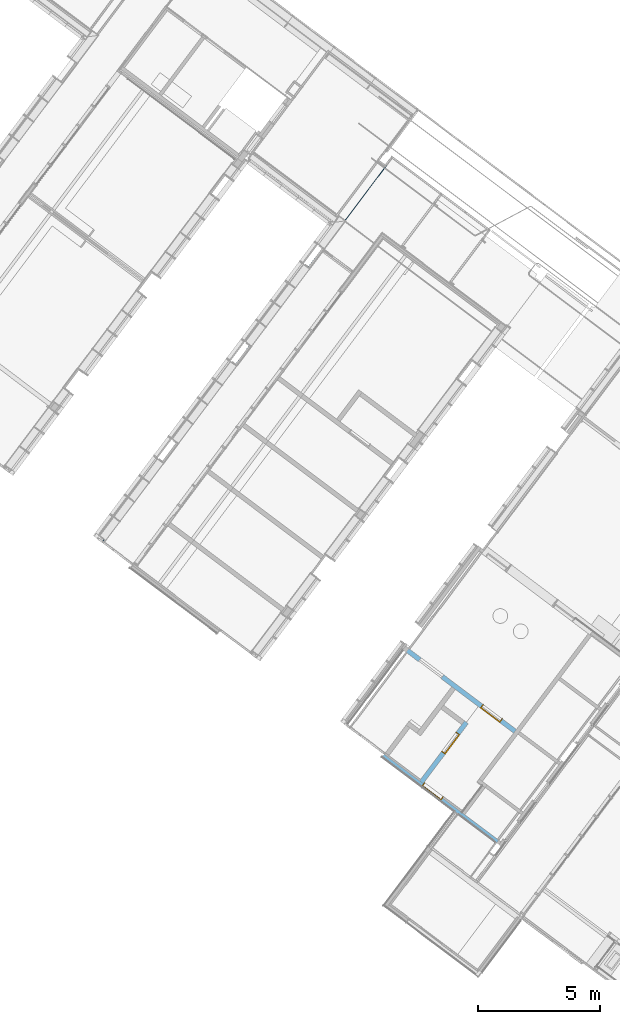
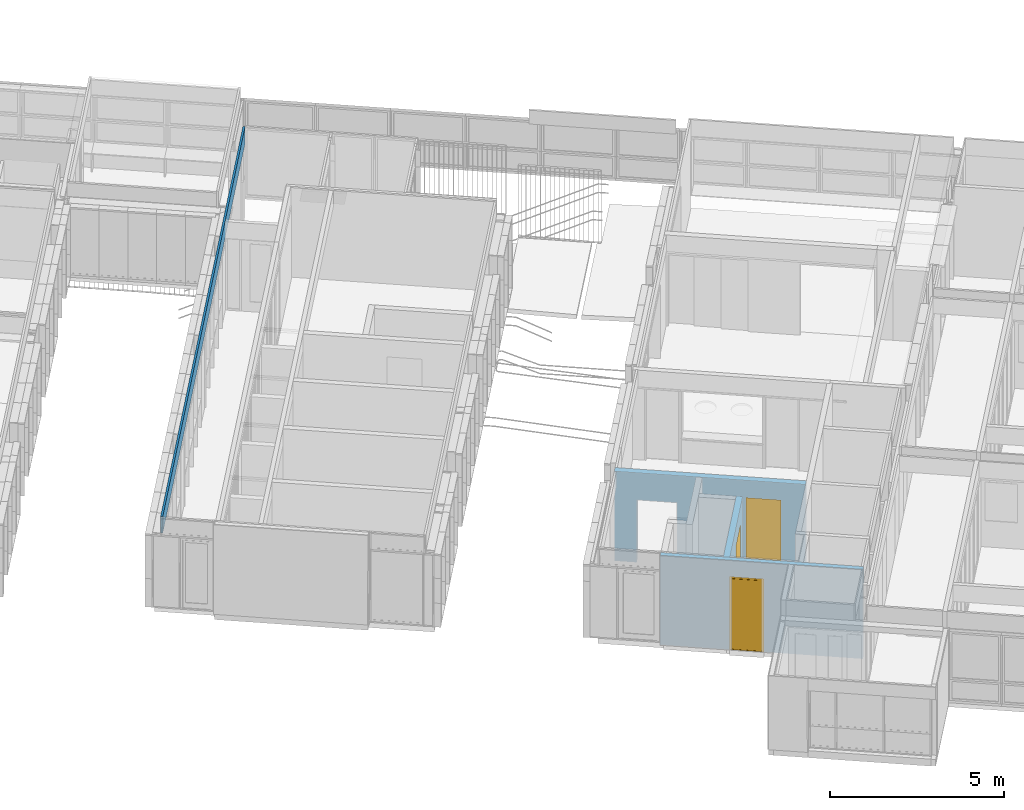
# One storey, part 136 of 243: 3 doors, 1 wall, 4 openings, plus 3 elements that do not belong to this part.
"""IFC2X3 building model written with IfcOpenShell, lengths in metres."""

from ifc_helpers import new_model, entity, si_unit, converted_unit, derived_unit, direction, frame, frame_2d, origin, place, context, subcontext, project, spatial, rectangle, extrude, faceted_brep, source, transform, mapped, material, layer, layer_set, layer_usage, type_object, type_shapes, element, fill, save


model = new_model("IFC2X3")

# Units and contexts
model_context = context("Model", 3, precision=1e-05, world=origin(), true_north=direction((6.123031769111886e-17, 1.0)))
body_context = subcontext(model_context, "Body", "Model", "MODEL_VIEW")
ifc_project = project(units=[si_unit("LENGTHUNIT", "METRE"), si_unit("AREAUNIT", "SQUARE_METRE"), si_unit("VOLUMEUNIT", "CUBIC_METRE"), converted_unit("PLANEANGLEUNIT", "DEGREE", entity("IfcRatioMeasure", 0.017453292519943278), si_unit("PLANEANGLEUNIT", "RADIAN"), dimensions=[0, 0, 0, 0, 0, 0, 0]), si_unit("MASSUNIT", "GRAM", prefix="KILO"), derived_unit("MASSDENSITYUNIT", [(si_unit("MASSUNIT", "GRAM", prefix="KILO"), 1), (si_unit("LENGTHUNIT", "METRE"), -3)]), derived_unit("IONCONCENTRATIONUNIT", [(si_unit("MASSUNIT", "GRAM", prefix="KILO"), 1), (si_unit("LENGTHUNIT", "METRE"), -3)]), derived_unit("MOMENTOFINERTIAUNIT", [(si_unit("LENGTHUNIT", "METRE"), 4)]), si_unit("TIMEUNIT", "SECOND"), si_unit("FREQUENCYUNIT", "HERTZ"), si_unit("THERMODYNAMICTEMPERATUREUNIT", "DEGREE_CELSIUS"), derived_unit("THERMALTRANSMITTANCEUNIT", [(si_unit("MASSUNIT", "GRAM", prefix="KILO"), 1), (si_unit("THERMODYNAMICTEMPERATUREUNIT", "KELVIN"), -1), (si_unit("TIMEUNIT", "SECOND"), -3)]), derived_unit("THERMALCONDUCTANCEUNIT", [(si_unit("MASSUNIT", "GRAM", prefix="KILO"), 1), (si_unit("THERMODYNAMICTEMPERATUREUNIT", "KELVIN"), -1), (si_unit("TIMEUNIT", "SECOND"), -3), (si_unit("LENGTHUNIT", "METRE"), 1)]), derived_unit("VOLUMETRICFLOWRATEUNIT", [(si_unit("LENGTHUNIT", "METRE"), 3), (si_unit("TIMEUNIT", "SECOND"), -1)]), derived_unit("MASSFLOWRATEUNIT", [(si_unit("MASSUNIT", "GRAM", prefix="KILO"), 1), (si_unit("TIMEUNIT", "SECOND"), -1)]), derived_unit("ROTATIONALFREQUENCYUNIT", [(si_unit("TIMEUNIT", "SECOND"), -1)]), si_unit("ELECTRICCURRENTUNIT", "AMPERE"), si_unit("ELECTRICVOLTAGEUNIT", "VOLT"), si_unit("POWERUNIT", "WATT"), si_unit("FORCEUNIT", "NEWTON", prefix="KILO"), si_unit("ILLUMINANCEUNIT", "LUX"), si_unit("LUMINOUSFLUXUNIT", "LUMEN"), si_unit("LUMINOUSINTENSITYUNIT", "CANDELA"), derived_unit("USERDEFINED", [(si_unit("MASSUNIT", "GRAM", prefix="KILO"), -1), (si_unit("LENGTHUNIT", "METRE"), -2), (si_unit("TIMEUNIT", "SECOND"), 3), (si_unit("LUMINOUSFLUXUNIT", "LUMEN"), 1)]), derived_unit("USERDEFINED", [(si_unit("MASSUNIT", "GRAM", prefix="KILO"), 1), (si_unit("TIMEUNIT", "SECOND"), -3), (si_unit("LENGTHUNIT", "METRE"), 3), (si_unit("ELECTRICCURRENTUNIT", "AMPERE"), -2)]), derived_unit("SOUNDPOWERUNIT", [(si_unit("MASSUNIT", "GRAM", prefix="KILO"), 1), (si_unit("TIMEUNIT", "SECOND"), -3), (si_unit("LENGTHUNIT", "METRE"), 2)]), derived_unit("SOUNDPRESSUREUNIT", [(si_unit("MASSUNIT", "GRAM", prefix="KILO"), 1), (si_unit("LENGTHUNIT", "METRE"), -1), (si_unit("TIMEUNIT", "SECOND"), -2)]), derived_unit("LINEARVELOCITYUNIT", [(si_unit("LENGTHUNIT", "METRE"), 1), (si_unit("TIMEUNIT", "SECOND"), -1)]), si_unit("PRESSUREUNIT", "PASCAL"), derived_unit("USERDEFINED", [(si_unit("MASSUNIT", "GRAM", prefix="KILO"), 1), (si_unit("LENGTHUNIT", "METRE"), -2), (si_unit("TIMEUNIT", "SECOND"), -2)]), derived_unit("LINEARFORCEUNIT", [(si_unit("MASSUNIT", "GRAM", prefix="KILO"), 1), (si_unit("TIMEUNIT", "SECOND"), -2)]), derived_unit("PLANARFORCEUNIT", [(si_unit("MASSUNIT", "GRAM", prefix="KILO"), 1), (si_unit("LENGTHUNIT", "METRE"), -1), (si_unit("TIMEUNIT", "SECOND"), -2)]), derived_unit("SPECIFICHEATCAPACITYUNIT", [(si_unit("THERMODYNAMICTEMPERATUREUNIT", "KELVIN"), -1), (si_unit("LENGTHUNIT", "METRE"), 2), (si_unit("TIMEUNIT", "SECOND"), -2)]), derived_unit("HEATINGVALUEUNIT", [(si_unit("LENGTHUNIT", "METRE"), 2), (si_unit("TIMEUNIT", "SECOND"), -2)]), derived_unit("VAPORPERMEABILITYUNIT", [(si_unit("LENGTHUNIT", "METRE"), -1), (si_unit("TIMEUNIT", "SECOND"), 1)]), derived_unit("DYNAMICVISCOSITYUNIT", [(si_unit("MASSUNIT", "GRAM", prefix="KILO"), 1), (si_unit("TIMEUNIT", "SECOND"), -1), (si_unit("LENGTHUNIT", "METRE"), -1)]), derived_unit("THERMALEXPANSIONCOEFFICIENTUNIT", [(si_unit("THERMODYNAMICTEMPERATUREUNIT", "KELVIN"), -1)]), derived_unit("MODULUSOFELASTICITYUNIT", [(si_unit("MASSUNIT", "GRAM", prefix="KILO"), 1), (si_unit("LENGTHUNIT", "METRE"), -1), (si_unit("TIMEUNIT", "SECOND"), -2)]), derived_unit("ISOTHERMALMOISTURECAPACITYUNIT", [(si_unit("LENGTHUNIT", "METRE"), 3), (si_unit("MASSUNIT", "GRAM", prefix="KILO"), -1)]), derived_unit("MOISTUREDIFFUSIVITYUNIT", [(si_unit("TIMEUNIT", "SECOND"), -1), (si_unit("LENGTHUNIT", "METRE"), 2)])], contexts=[model_context])

# Site, building, storey
site_placement = place(None, frame((0.0, 0.0, 235.0), z_axis=(0.0, 0.0, 1.0), x_axis=(-0.7996477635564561, 0.6004693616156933, 0.0)))
site = spatial("IfcSite", under=ifc_project, at=site_placement, Name="Default", CompositionType="ELEMENT")
building_placement = place(site_placement, origin())
building = spatial("IfcBuilding", under=site, at=building_placement, CompositionType="ELEMENT")
storey_placement = place(building_placement, origin())
storey = spatial("IfcBuildingStorey", under=building, at=storey_placement, Name="P0- Escola", CompositionType="ELEMENT", Elevation=0.0)

# Wall, opening, door
ifc_material_1 = material(Name="_Ceràmica- ENV")
ifc_layer_1 = layer(ifc_material_1, 0.14)
ifc_layer_set_1 = layer_set([ifc_layer_1], Name="Muro básico:ENV- Ceràmic- 14 cm")
ifc_layer_usage_1 = layer_usage(ifc_layer_set_1, "AXIS2", "NEGATIVE", 0.07)
wall_type_1 = type_object("IfcWallType", Name="Muro básico:ENV- Ceràmic- 14 cm", PredefinedType="STANDARD", material=ifc_layer_set_1)
wall_1_placement = place(storey_placement, frame((21.82514768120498, -20.22019175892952, 0.0), z_axis=(0.0, 0.0, 1.0), x_axis=(-1.0, 0.0, 0.0)))
wall_1 = element("IfcWallStandardCase", 1, at=wall_1_placement, inside=storey, type_object=wall_type_1, material=ifc_layer_usage_1, Name="Muro básico:ENV- Ceràmic- 14 cm", ObjectType="Muro básico:ENV- Ceràmic- 14 cm", context=body_context, shape_type="SweptSolid", body=[
    extrude(rectangle(XDim=5.879999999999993, YDim=0.14000000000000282, at=frame_2d((2.9399999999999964, 0.0), x_axis=(-1.0, 0.0))), origin(), (0.0, 0.0, 1.0), 3.150000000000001),
])
opening_1_placement = place(wall_1_placement, frame((3.0076161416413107, 0.07000000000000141, 0.0)))
opening_1 = element("IfcOpeningElement", 2, at=opening_1_placement, cuts=wall_1, Name="FUS- Alu- Fulla porta opaca:FUS- Alu- Fulla porta opaca- 2,505X0,85:1", ObjectType="Opening", context=body_context, shape_type="SweptSolid", body=[
    extrude(rectangle(XDim=2.573999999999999, YDim=0.9965999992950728, at=frame_2d((1.2869999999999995, 0.4982999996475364), x_axis=(1.0, 0.0))), frame((0.0, 0.0, 0.0), z_axis=(0.0, -1.0, 0.0), x_axis=(0.0, 0.0, 1.0)), (0.0, 0.0, 1.0), 0.14),
])
ifc_material_2 = material(Name="_Alumini- T1- Perfil")
door_style_1 = type_object("IfcDoorStyle", Name="FUS- Alu- Fulla porta opaca:FUS- Alu- Fulla porta opaca- 2,505X0,85", ConstructionType="NOTDEFINED", OperationType="NOTDEFINED", ParameterTakesPrecedence=False, Sizeable=False, material=ifc_material_2)
shared_shape_1 = source(origin(), body_context, "Body", "Brep", [
    faceted_brep([(0.919299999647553, 0.14000000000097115, 0.02800000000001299), (0.9192999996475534, 0.1250000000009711, 0.02800000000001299), (0.07729999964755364, 0.12500000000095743, 0.02800000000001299), (0.07729999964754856, 0.14000000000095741, 0.02800000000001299), (0.919299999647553, 0.14000000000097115, 2.496000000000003), (0.9192999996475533, 0.12500000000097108, 2.496000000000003), (0.07729999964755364, 0.12500000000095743, 2.496000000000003), (0.07729999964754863, 0.14000000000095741, 2.496000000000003)], [[[0, 1, 2, 3]], [[4, 5, 1, 0]], [[5, 6, 2, 1]], [[6, 7, 3, 2]], [[7, 4, 0, 3]], [[4, 7, 6, 5]]]),
    faceted_brep([(0.9192999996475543, 0.070000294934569, 0.02800000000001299), (0.07729999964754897, 0.07000029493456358, 0.02800000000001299), (0.07729999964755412, 0.085000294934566, 0.02800000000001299), (0.9192999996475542, 0.08500029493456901, 0.02800000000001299), (0.9192999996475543, 0.070000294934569, 2.496000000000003), (0.07729999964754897, 0.07000029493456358, 2.496000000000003), (0.07729999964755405, 0.085000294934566, 2.496000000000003), (0.9192999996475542, 0.08500029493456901, 2.496000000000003)], [[[0, 1, 2, 3]], [[4, 5, 1, 0]], [[5, 6, 2, 1]], [[6, 7, 3, 2]], [[7, 4, 0, 3]], [[4, 7, 6, 5]]]),
    faceted_brep([(0.9472999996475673, 0.07430029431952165, 2.524000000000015), (0.9472999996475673, 0.07000029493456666, 2.524000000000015), (0.9472999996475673, 0.07000029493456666, 0.0), (0.9472999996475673, 0.07430029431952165, 0.0), (0.9192999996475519, 0.07000029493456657, 0.028000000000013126), (0.07729999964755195, 0.07000029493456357, 0.028000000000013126), (0.07729999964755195, 0.07000029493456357, 2.496), (0.9192999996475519, 0.07000029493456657, 2.496), (0.04929999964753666, 0.07000029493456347, 2.524000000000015), (0.04929999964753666, 0.07000029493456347, 0.0), (0.04929999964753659, 0.07430029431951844, 0.0), (0.04929999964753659, 0.07430029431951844, 2.524000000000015), (0.9232999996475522, 0.07430029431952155, 2.5), (0.07329999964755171, 0.07430029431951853, 2.5), (0.07329999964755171, 0.07430029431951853, 0.024000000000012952), (0.9232999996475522, 0.07430029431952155, 0.024000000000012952), (0.9232999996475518, 0.14000000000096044, 2.5), (0.9232999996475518, 0.14000000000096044, 0.024000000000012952), (0.0732999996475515, 0.14000000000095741, 0.024000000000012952), (0.0732999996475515, 0.14000000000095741, 2.5), (0.9192999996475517, 0.1400000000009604, 2.496), (0.07729999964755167, 0.14000000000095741, 2.496), (0.07729999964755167, 0.14000000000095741, 0.028000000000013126), (0.9192999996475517, 0.1400000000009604, 0.028000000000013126)], [[[0, 1, 2, 3]], [[4, 5, 6, 7], [1, 8, 9, 2]], [[3, 2, 9, 10]], [[3, 10, 11, 0], [12, 13, 14, 15]], [[16, 12, 15, 17]], [[17, 15, 14, 18]], [[17, 18, 19, 16], [20, 21, 22, 23]], [[10, 9, 8, 11]], [[18, 14, 13, 19]], [[7, 20, 23, 4]], [[4, 23, 22, 5]], [[5, 22, 21, 6]], [[11, 8, 1, 0]], [[6, 21, 20, 7]], [[19, 13, 12, 16]]], outer=[[True], [False, True], [True], [True, False], [True], [True], [True, False], [True], [True], [True], [True], [True], [True], [True], [True]]),
    faceted_brep([(0.0, -0.06500000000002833, 0.0), (0.0, 0.1400000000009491, 0.0), (0.06729999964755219, 0.1400000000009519, 0.0), (0.06729999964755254, 0.1311999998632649, 0.0), (0.05180003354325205, 0.13119999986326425, 0.0), (0.051800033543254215, 0.08030013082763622, 0.0), (0.041300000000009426, 0.08030013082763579, 0.0), (0.04130000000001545, -0.0650000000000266, 0.0), (0.04130000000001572, -0.0650000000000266, 2.5327000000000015), (0.9552999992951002, -0.06499999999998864, 2.532700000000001), (0.9552999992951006, -0.06499999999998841, 0.0), (0.9965999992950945, -0.0649999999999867, 0.0), (0.9965999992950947, -0.0649999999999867, 2.5739999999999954), (0.0, -0.06500000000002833, 2.5739999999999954), (0.041300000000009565, 0.08030013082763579, 2.5327000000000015), (0.051800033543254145, 0.08030013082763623, 2.522199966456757), (0.9447999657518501, 0.08030013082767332, 2.522199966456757), (0.9447999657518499, 0.08030013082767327, 0.0), (0.9552999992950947, 0.0803001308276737, 0.0), (0.955299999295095, 0.0803001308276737, 2.5327000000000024), (0.05180003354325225, 0.13119999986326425, 2.5221999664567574), (0.06729999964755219, 0.1311999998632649, 2.5067000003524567), (0.9292999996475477, 0.1311999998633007, 2.5067000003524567), (0.9292999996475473, 0.13119999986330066, 0.0), (0.9447999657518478, 0.1311999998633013, 0.0), (0.9447999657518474, 0.1311999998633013, 2.5221999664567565), (0.0672999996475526, 0.1400000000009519, 2.5067000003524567), (0.0, 0.1400000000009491, 2.5739999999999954), (0.996599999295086, 0.14000000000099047, 2.5739999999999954), (0.9965999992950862, 0.14000000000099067, 0.0), (0.9292999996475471, 0.14000000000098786, 0.0), (0.9292999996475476, 0.14000000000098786, 2.5067000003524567)], [[[0, 1, 2, 3, 4, 5, 6, 7]], [[7, 8, 9, 10, 11, 12, 13, 0]], [[6, 14, 8, 7]], [[5, 15, 16, 17, 18, 19, 14, 6]], [[4, 20, 15, 5]], [[3, 21, 22, 23, 24, 25, 20, 4]], [[2, 26, 21, 3]], [[1, 27, 28, 29, 30, 31, 26, 2]], [[0, 13, 27, 1]], [[11, 10, 18, 17, 24, 23, 30, 29]], [[12, 11, 29, 28]], [[31, 30, 23, 22]], [[25, 24, 17, 16]], [[19, 18, 10, 9]], [[14, 19, 9, 8]], [[20, 25, 16, 15]], [[26, 31, 22, 21]], [[13, 12, 28, 27]]]),
    faceted_brep([(0.955299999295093, 0.14000000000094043, 0.02000000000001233), (0.955299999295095, 0.08500029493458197, 0.02000000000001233), (0.955299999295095, 0.08500029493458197, 0.0), (0.955299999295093, 0.14000000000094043, 0.0), (0.04130000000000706, 0.14000000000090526, 0.02000000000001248), (0.04130000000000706, 0.14000000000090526, 0.0), (0.041300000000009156, 0.0850002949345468, 0.0), (0.041300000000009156, 0.0850002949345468, 0.02000000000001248)], [[[0, 1, 2, 3]], [[4, 5, 6, 7]], [[3, 5, 4, 0]], [[2, 6, 5, 3]], [[1, 7, 6, 2]], [[0, 4, 7, 1]]]),
])
type_shapes(door_style_1, [shared_shape_1])
door_1_placement = place(opening_1_placement, frame((0.0, 0.0, 0.0), z_axis=(0.0, 0.0, 1.0), x_axis=(-1.0, 0.0, 0.0)))
door_1 = element("IfcDoor", 3, at=door_1_placement, inside=storey, type_object=door_style_1, material=ifc_material_2, Name="FUS- Alu- Fulla porta opaca:FUS- Alu- Fulla porta opaca- 2,505X0,85", ObjectType="FUS- Alu- Fulla porta opaca:FUS- Alu- Fulla porta opaca- 2,505X0,85", OverallHeight=2.573999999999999, OverallWidth=0.9965999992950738, context=body_context, shape_type="MappedRepresentation", body=[
    mapped(shared_shape_1, transform((0.0, 0.0, 0.0), scale=1.0)),
])
fill(opening_1, door_1)

# Wall
ifc_material_3 = material(Name="_Guix laminat- ENV")
ifc_layer_2 = layer(ifc_material_3, 0.02)
ifc_material_4 = material(Name="_Aillament")
ifc_layer_3 = layer(ifc_material_4, 0.045)
ifc_layer_set_2 = layer_set([ifc_layer_2, ifc_layer_3], Name="Muro básico:REV- Guix Laminat Extradossat- Aillament- T1- 6,5 cm")
wall_type_2 = type_object("IfcWallType", Name="Muro básico:REV- Guix Laminat Extradossat- Aillament- T1- 6,5 cm", PredefinedType="STANDARD", material=ifc_layer_set_2)
wall_2_placement = place(storey_placement, frame((36.31264768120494, -40.080191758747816, 2.5650000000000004), z_axis=(0.0, 0.0, 1.0), x_axis=(0.0, 1.0, 0.0)))
element("IfcWall", 4, at=wall_2_placement, inside=storey, type_object=wall_type_2, Name="Muro básico:REV- Guix Laminat Extradossat- Aillament- T1- 6,5 cm", ObjectType="Muro básico:REV- Guix Laminat Extradossat- Aillament- T1- 6,5 cm", context=body_context, shape_type="Brep", body=[
    faceted_brep([(19.726250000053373, -0.03249999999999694, 0.0), (19.726250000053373, -0.03249999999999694, 0.5850000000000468), (0.0, -0.03249999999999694, 0.5850000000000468), (0.0, -0.03249999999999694, 0.0), (0.3899999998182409, -0.03249999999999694, 0.0), (0.3899999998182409, -0.03249999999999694, 0.03499999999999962), (3.2000018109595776, -0.03249999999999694, 0.03499999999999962), (3.2000018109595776, -0.03249999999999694, 0.0), (19.726250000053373, 0.03250000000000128, 0.0), (4.809999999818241, 0.03250000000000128, 0.0), (4.679999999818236, 0.03250000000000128, 0.0), (0.0, 0.03250000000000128, 0.0), (0.0, 0.03250000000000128, 0.5850000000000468), (4.67999999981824, 0.03250000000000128, 0.5850000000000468), (4.809999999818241, 0.03250000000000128, 0.5850000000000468), (19.726250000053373, 0.03250000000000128, 0.5850000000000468), (3.2000018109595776, 0.012499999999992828, 0.0), (0.3899999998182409, 0.01249999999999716, 0.0), (0.3899999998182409, 0.01249999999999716, 0.03499999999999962), (3.2000018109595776, 0.012499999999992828, 0.03499999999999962)], [[[0, 1, 2, 3, 4, 5, 6, 7]], [[8, 9, 10, 11, 12, 13, 14, 15]], [[11, 10, 9, 8, 0, 7, 16, 17, 4, 3]], [[1, 0, 8, 15]], [[2, 1, 15, 14, 13, 12]], [[3, 2, 12, 11]], [[18, 19, 6, 5]], [[19, 18, 17, 16]], [[19, 16, 7, 6]], [[17, 18, 5, 4]]]),
])

# Wall, openings, door
ifc_material_5 = material(Name="_Enrajolat Gresite- REV- PAV")
ifc_layer_4 = layer(ifc_material_5, 0.01)
ifc_material_6 = material(Name="_Morter Base - REV")
ifc_layer_5 = layer(ifc_material_6, 0.015)
ifc_layer_6 = layer(ifc_material_1, 0.14)
ifc_layer_7 = layer(ifc_material_6, 0.015)
ifc_layer_8 = layer(ifc_material_5, 0.01)
ifc_layer_set_3 = layer_set([ifc_layer_4, ifc_layer_5, ifc_layer_6, ifc_layer_7, ifc_layer_8], Name="Muro básico:ENV- REV- Ceràmic- 14 cm + peces pasta vitrea 2 caras")
ifc_layer_usage_2 = layer_usage(ifc_layer_set_3, "AXIS2", "NEGATIVE", 0.09499999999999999)
wall_type_3 = type_object("IfcWallType", Name="Muro básico:ENV- REV- Ceràmic- 14 cm + peces pasta vitrea 2 caras", PredefinedType="STANDARD", material=ifc_layer_set_3)
wall_3_placement = place(storey_placement, frame((18.095147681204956, -24.272191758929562, 0.0)))
wall_3 = element("IfcWallStandardCase", 5, at=wall_3_placement, inside=storey, type_object=wall_type_3, material=ifc_layer_usage_2, Name="Muro básico:ENV- REV- Ceràmic- 14 cm + peces pasta vitrea 2 caras", ObjectType="Muro básico:ENV- REV- Ceràmic- 14 cm + peces pasta vitrea 2 caras", context=body_context, shape_type="SweptSolid", body=[
    extrude(rectangle(XDim=5.550000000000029, YDim=0.1900000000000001, at=frame_2d((2.7750000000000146, -1.3183898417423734e-16), x_axis=(-1.0, 0.0))), origin(), (0.0, 0.0, 1.0), 3.150000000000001),
])
opening_2_placement = place(wall_3_placement, frame((3.730000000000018, -1.6190000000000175, 0.0)))
element("IfcOpeningElement", 6, at=opening_2_placement, cuts=wall_3, Name="Muro básico:ENV- REV- Ceràmic- 14 cm + peces pasta vitrea 2 caras", ObjectType="Opening", context=body_context, shape_type="SweptSolid", body=[
    extrude(rectangle(XDim=2.199999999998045, YDim=1.1700000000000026, at=frame_2d((-4.3298697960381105e-15, 0.0), x_axis=(0.0, 1.0))), frame((0.584999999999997, 0.0, 1.0999999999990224), z_axis=(0.0, 1.0, 0.0), x_axis=(-1.0, 0.0, 0.0)), (0.0, 0.0, 1.0), 3.048),
])
opening_3_placement = place(wall_3_placement, frame((0.7050000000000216, -0.09500000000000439, 0.0)))
opening_3 = element("IfcOpeningElement", 7, at=opening_3_placement, cuts=wall_3, Name="FUS- Porta Fusta- marc ocult- obertura exterior:FUS- Porta Fusta- marc ocult- 90x250,5 cm:1", ObjectType="Opening", context=body_context, shape_type="SweptSolid", body=[
    extrude(rectangle(XDim=2.544999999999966, YDim=1.0199999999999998, at=frame_2d((1.272499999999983, 0.5100000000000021), x_axis=(1.0, 0.0))), frame((0.0, 0.0, 0.0), z_axis=(0.0, 1.0, 0.0), x_axis=(0.0, 0.0, 1.0)), (0.0, 0.0, 1.0), 0.18999999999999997),
])
ifc_material_7 = material(Name="_Fusta massisa- T1-  REV- PAV")
door_style_2 = type_object("IfcDoorStyle", Name="FUS- Porta Fusta- marc ocult- obertura exterior:FUS- Porta Fusta- marc ocult- 90x250,5 cm", ConstructionType="NOTDEFINED", OperationType="SINGLE_SWING_RIGHT", ParameterTakesPrecedence=False, Sizeable=False, material=ifc_material_7)
shared_shape_2 = source(origin(), body_context, "Body", "Brep", [
    faceted_brep([(0.9000000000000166, -0.019999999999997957, 2.5049999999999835), (0.9000000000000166, -0.01999999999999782, 0.0), (0.9300000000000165, -0.019999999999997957, 0.0), (0.9300000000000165, -0.01999999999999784, 2.5449999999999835), (-0.06999999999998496, -0.019999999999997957, 2.5449999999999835), (-0.06999999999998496, -0.019999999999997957, 0.0), (-0.03999999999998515, -0.019999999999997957, 0.0), (-0.039999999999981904, -0.019999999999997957, 2.5049999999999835), (-0.03999999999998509, 0.1400000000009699, 0.0), (-0.03999999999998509, 0.1400000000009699, 2.5449999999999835), (-0.03999999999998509, 0.12000000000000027, 2.5449999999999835), (-0.03999999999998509, 0.12000000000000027, 2.5049999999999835), (-0.06999999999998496, -0.009999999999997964, 0.0), (-0.07999999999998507, -0.009999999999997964, 0.0), (-0.07999999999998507, 0.1900000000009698, 0.0), (-0.019999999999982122, 0.1900000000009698, 0.0), (-0.019999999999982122, 0.1400000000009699, 0.0), (-0.06999999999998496, -0.009999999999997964, 2.5449999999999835), (0.9300000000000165, -0.009999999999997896, 0.0), (0.9300000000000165, -0.009999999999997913, 2.5449999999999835), (0.9000000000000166, 0.14000000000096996, 0.0), (0.8800000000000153, 0.14000000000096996, 0.0), (0.8800000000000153, 0.19000000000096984, 0.0), (0.9400000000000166, 0.19000000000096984, 0.0), (0.9400000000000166, -0.009999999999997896, 0.0), (0.9000000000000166, 0.12000000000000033, 2.5049999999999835), (0.900000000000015, 0.12000000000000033, 2.5449999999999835), (0.9000000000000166, 0.14000000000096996, 2.5449999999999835), (-0.019999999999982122, 0.19000000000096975, 2.5049999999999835), (-0.07999999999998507, 0.1900000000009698, 2.5449999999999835), (0.9400000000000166, 0.19000000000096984, 2.5449999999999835), (0.8800000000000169, 0.19000000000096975, 2.5049999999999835), (0.8800000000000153, 0.14000000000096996, 2.5049999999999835), (0.9400000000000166, -0.009999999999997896, 2.5449999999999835), (-0.07999999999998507, -0.009999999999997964, 2.5449999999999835), (-0.019999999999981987, 0.1400000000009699, 2.5049999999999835), (-0.01999999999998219, 0.1400000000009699, 2.5449999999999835), (0.8800000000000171, 0.14000000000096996, 2.5449999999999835), (0.8800000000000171, 0.12000000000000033, 2.5449999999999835), (-0.019999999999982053, 0.12000000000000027, 2.5449999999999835), (0.8800000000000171, 0.12000000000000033, 2.5049999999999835), (-0.019999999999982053, 0.12000000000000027, 2.5049999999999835)], [[[0, 1, 2, 3, 4, 5, 6, 7]], [[8, 9, 10, 11, 7, 6]], [[12, 13, 14, 15, 16, 8, 6, 5]], [[17, 12, 5, 4]], [[3, 2, 18, 19]], [[18, 2, 1, 20, 21, 22, 23, 24]], [[1, 0, 25, 26, 27, 20]], [[28, 15, 14, 29, 30, 23, 22, 31]], [[21, 32, 31, 22]], [[33, 24, 23, 30]], [[29, 14, 13, 34]], [[15, 28, 35, 16]], [[9, 8, 16, 35, 36]], [[34, 13, 12, 17]], [[19, 18, 24, 33]], [[37, 32, 21, 20, 27]], [[30, 29, 34, 17, 4, 3, 19, 33], [38, 37, 27, 26], [10, 9, 36, 39]], [[31, 32, 40, 25, 0, 7, 11, 41, 35, 28]], [[26, 25, 40, 38]], [[40, 32, 37, 38]], [[39, 41, 11, 10]], [[39, 36, 35, 41]]]),
    faceted_brep([(-0.019999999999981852, 0.18999999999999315, 0.0), (0.8800000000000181, 0.18999999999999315, 0.0), (0.8800000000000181, 0.13999999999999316, 0.0), (-0.019999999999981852, 0.13999999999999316, 0.0), (-0.019999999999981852, 0.18999999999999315, 2.5050000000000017), (-0.019999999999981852, 0.13999999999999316, 2.5050000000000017), (0.8800000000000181, 0.13999999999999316, 2.5050000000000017), (0.8800000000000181, 0.18999999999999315, 2.5050000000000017)], [[[0, 1, 2, 3]], [[4, 0, 3, 5]], [[5, 3, 2, 6]], [[6, 2, 1, 7]], [[7, 1, 0, 4]], [[4, 5, 6, 7]]]),
])
type_shapes(door_style_2, [shared_shape_2])
door_2_placement = place(opening_3_placement, frame((0.07999999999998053, 0.0, 0.0)))
door_2 = element("IfcDoor", 8, at=door_2_placement, inside=storey, type_object=door_style_2, material=ifc_material_7, Name="FUS- Porta Fusta- marc ocult- obertura exterior:FUS- Porta Fusta- marc ocult- 90x250,5 cm", ObjectType="FUS- Porta Fusta- marc ocult- obertura exterior:FUS- Porta Fusta- marc ocult- 90x250,5 cm", OverallHeight=2.544999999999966, OverallWidth=1.020000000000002, context=body_context, shape_type="MappedRepresentation", body=[
    mapped(shared_shape_2, transform((0.0, 0.0, 0.0), scale=1.0)),
])
fill(opening_3, door_2)

# Wall, opening, door
wall_4_placement = place(storey_placement, frame((19.915147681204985, -20.29019175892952, 0.0), z_axis=(0.0, 0.0, 1.0), x_axis=(0.0, -1.0, 0.0)))
wall_4 = element("IfcWallStandardCase", 9, at=wall_4_placement, inside=storey, type_object=wall_type_3, material=ifc_layer_usage_2, Name="Muro básico:ENV- REV- Ceràmic- 14 cm + peces pasta vitrea 2 caras", ObjectType="Muro básico:ENV- REV- Ceràmic- 14 cm + peces pasta vitrea 2 caras", context=body_context, shape_type="SweptSolid", body=[
    extrude(rectangle(XDim=3.0770000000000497, YDim=0.1900000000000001, at=frame_2d((1.5385000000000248, 0.0), x_axis=(1.0, 0.0))), origin(), (0.0, 0.0, 1.0), 3.150000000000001),
])
opening_4_placement = place(wall_4_placement, frame((1.4959999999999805, -0.09499999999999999, 0.0)))
opening_4 = element("IfcOpeningElement", 10, at=opening_4_placement, cuts=wall_4, Name="FUS- Porta Fusta- marc ocult- obertura interior:FUS- Porta Fusta- marc ocult- 90x250,5 cm:1", ObjectType="Opening", context=body_context, shape_type="SweptSolid", body=[
    extrude(rectangle(XDim=2.544999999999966, YDim=1.0199999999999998, at=frame_2d((1.272499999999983, 0.5100000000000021), x_axis=(1.0, 0.0))), frame((0.0, 0.0, 0.0), z_axis=(0.0, 1.0, 0.0), x_axis=(0.0, 0.0, 1.0)), (0.0, 0.0, 1.0), 0.18999999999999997),
])
door_style_3 = type_object("IfcDoorStyle", Name="FUS- Porta Fusta- marc ocult- obertura interior:FUS- Porta Fusta- marc ocult- 90x250,5 cm", ConstructionType="NOTDEFINED", OperationType="NOTDEFINED", ParameterTakesPrecedence=False, Sizeable=False, material=ifc_material_7)
shared_shape_3 = source(origin(), body_context, "Body", "Brep", [
    faceted_brep([(1.0100000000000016, 0.0, 0.0), (1.0100000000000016, -0.009999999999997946, 0.0), (0.9800000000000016, -0.009999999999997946, 0.0), (0.9800000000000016, 0.1400000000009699, 0.0), (0.9599999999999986, 0.1400000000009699, 0.0), (0.9599999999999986, 0.1900000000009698, 0.0), (1.0200000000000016, 0.1900000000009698, 0.0), (1.0200000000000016, 0.0, 0.0), (1.0100000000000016, 0.0, 2.5449999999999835), (1.0100000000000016, -0.009999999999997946, 2.5449999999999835), (0.9800000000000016, -0.009999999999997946, 2.5049999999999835), (0.9800000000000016, 0.12000000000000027, 2.5049999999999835), (0.9799999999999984, 0.12000000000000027, 2.5449999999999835), (0.9800000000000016, 0.1400000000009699, 2.5449999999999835), (0.9599999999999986, 0.1400000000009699, 2.5449999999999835), (0.9599999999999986, 0.1400000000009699, 2.5049999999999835), (0.9599999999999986, 0.19000000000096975, 2.5049999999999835), (1.0200000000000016, 0.1900000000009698, 2.5449999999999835), (1.0200000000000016, 0.0, 2.5449999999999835), (0.010000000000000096, 0.0, 0.0), (0.0, 0.0, 0.0), (0.0, 0.19000000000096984, 0.0), (0.06000000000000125, 0.19000000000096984, 0.0), (0.06000000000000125, 0.14000000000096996, 0.0), (0.03999999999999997, 0.14000000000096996, 0.0), (0.03999999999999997, -0.009999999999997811, 0.0), (0.010000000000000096, -0.009999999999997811, 0.0), (0.010000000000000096, 0.0, 2.5449999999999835), (0.0, 0.0, 2.5449999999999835), (0.0, 0.19000000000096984, 2.5449999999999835), (0.06000000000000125, 0.19000000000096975, 2.5049999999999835), (0.06000000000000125, 0.14000000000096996, 2.5049999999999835), (0.06000000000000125, 0.14000000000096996, 2.5449999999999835), (0.03999999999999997, 0.14000000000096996, 2.5449999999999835), (0.03999999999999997, 0.12000000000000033, 2.5449999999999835), (0.03999999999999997, 0.12000000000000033, 2.5049999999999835), (0.03999999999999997, -0.009999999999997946, 2.5049999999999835), (0.010000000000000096, -0.009999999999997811, 2.5449999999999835), (0.05999999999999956, 0.12000000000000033, 2.5449999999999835), (0.9599999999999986, 0.12000000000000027, 2.5449999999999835), (0.9599999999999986, 0.12000000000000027, 2.5049999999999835), (0.05999999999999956, 0.12000000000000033, 2.5049999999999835)], [[[0, 1, 2, 3, 4, 5, 6, 7]], [[8, 9, 1, 0]], [[3, 2, 10, 11, 12, 13]], [[13, 14, 15, 4, 3]], [[5, 4, 15, 16]], [[17, 18, 7, 6]], [[18, 8, 0, 7]], [[19, 20, 21, 22, 23, 24, 25, 26]], [[27, 28, 20, 19]], [[28, 29, 21, 20]], [[23, 22, 30, 31]], [[32, 33, 24, 23, 31]], [[25, 24, 33, 34, 35, 36]], [[37, 27, 19, 26]], [[29, 28, 27, 37, 9, 8, 18, 17], [38, 34, 33, 32], [12, 39, 14, 13]], [[30, 16, 15, 40, 11, 10, 36, 35, 41, 31]], [[34, 38, 41, 35]], [[36, 10, 2, 1, 9, 37, 26, 25]], [[39, 12, 11, 40]], [[39, 40, 15, 14]], [[16, 30, 22, 21, 29, 17, 6, 5]], [[41, 38, 32, 31]]]),
    faceted_brep([(0.9599999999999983, 0.19000000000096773, 0.0), (0.9599999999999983, 0.14000000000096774, 0.0), (0.05999999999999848, 0.14000000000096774, 0.0), (0.05999999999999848, 0.19000000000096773, 0.0), (0.9599999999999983, 0.19000000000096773, 2.5050000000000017), (0.9599999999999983, 0.14000000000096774, 2.5050000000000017), (0.05999999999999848, 0.14000000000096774, 2.5050000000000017), (0.05999999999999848, 0.19000000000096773, 2.5050000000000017)], [[[0, 1, 2, 3]], [[4, 5, 1, 0]], [[5, 6, 2, 1]], [[6, 7, 3, 2]], [[7, 4, 0, 3]], [[4, 7, 6, 5]]]),
])
type_shapes(door_style_3, [shared_shape_3])
door_3_placement = place(opening_4_placement, frame((1.0199999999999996, 0.18999999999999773, 0.0), z_axis=(0.0, 0.0, 1.0), x_axis=(-1.0, 0.0, 0.0)))
door_3 = element("IfcDoor", 11, at=door_3_placement, inside=storey, type_object=door_style_3, material=ifc_material_7, Name="FUS- Porta Fusta- marc ocult- obertura interior:FUS- Porta Fusta- marc ocult- 90x250,5 cm", ObjectType="FUS- Porta Fusta- marc ocult- obertura interior:FUS- Porta Fusta- marc ocult- 90x250,5 cm", OverallHeight=2.544999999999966, OverallWidth=1.020000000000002, context=body_context, shape_type="MappedRepresentation", body=[
    mapped(shared_shape_3, transform((0.0, 0.0, 0.0), scale=1.0)),
])
fill(opening_4, door_3)

save(model, "model.ifc")
